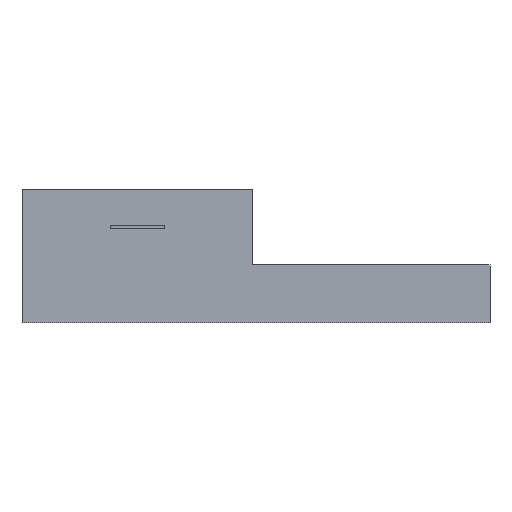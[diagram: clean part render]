
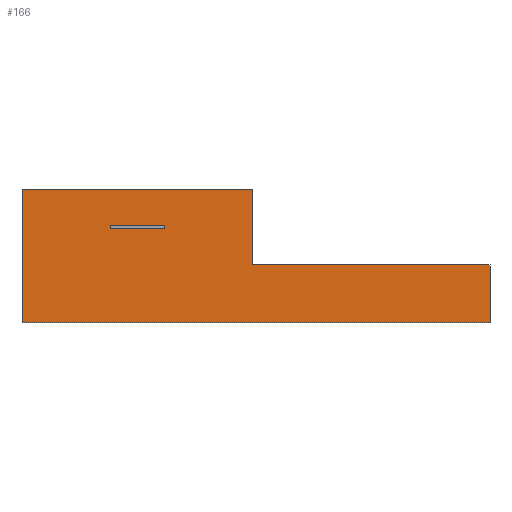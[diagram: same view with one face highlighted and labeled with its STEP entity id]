
A CAD part, left-side view. The second image highlights one B-rep face of the part: STEP entity #166.
In plain terms, the highlighted planar face has unit normal (-1, 0, 0).
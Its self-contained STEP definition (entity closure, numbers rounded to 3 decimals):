
#166=ADVANCED_FACE('',(#319,#321),#323,.T.);
#319=FACE_BOUND('',#320,.T.);
#320=EDGE_LOOP('',(#428,#429,#430,#431,#432,#433));
#321=FACE_BOUND('',#322,.T.);
#322=EDGE_LOOP('',(#434,#435,#436,#437));
#323=PLANE('',#324);
#324=AXIS2_PLACEMENT_3D('',#325,#326,#327);
#325=CARTESIAN_POINT('',(-3.2,7.6,2.6));
#326=DIRECTION('',(-1.,0.,0.));
#327=DIRECTION('',(0.,-1.,0.));
#428=ORIENTED_EDGE('',*,*,#486,.T.);
#429=ORIENTED_EDGE('',*,*,#484,.F.);
#430=ORIENTED_EDGE('',*,*,#483,.F.);
#431=ORIENTED_EDGE('',*,*,#478,.F.);
#432=ORIENTED_EDGE('',*,*,#491,.T.);
#433=ORIENTED_EDGE('',*,*,#488,.T.);
#434=ORIENTED_EDGE('',*,*,#492,.F.);
#435=ORIENTED_EDGE('',*,*,#493,.F.);
#436=ORIENTED_EDGE('',*,*,#494,.F.);
#437=ORIENTED_EDGE('',*,*,#495,.F.);
#478=EDGE_CURVE('',#536,#537,#538,.T.);
#483=EDGE_CURVE('',#537,#543,#545,.F.);
#484=EDGE_CURVE('',#543,#546,#547,.T.);
#486=EDGE_CURVE('',#549,#546,#550,.T.);
#488=EDGE_CURVE('',#552,#549,#553,.T.);
#491=EDGE_CURVE('',#536,#552,#557,.T.);
#492=EDGE_CURVE('',#558,#559,#560,.T.);
#493=EDGE_CURVE('',#561,#558,#562,.T.);
#494=EDGE_CURVE('',#563,#561,#564,.T.);
#495=EDGE_CURVE('',#559,#563,#565,.F.);
#536=VERTEX_POINT('',#646);
#537=VERTEX_POINT('',#647);
#538=LINE('',#648,#649);
#543=VERTEX_POINT('',#662);
#545=LINE('',#666,#667);
#546=VERTEX_POINT('',#669);
#547=LINE('',#670,#671);
#549=VERTEX_POINT('',#676);
#550=LINE('',#677,#678);
#552=VERTEX_POINT('',#683);
#553=LINE('',#684,#685);
#557=LINE('',#695,#696);
#558=VERTEX_POINT('',#698);
#559=VERTEX_POINT('',#699);
#560=LINE('',#700,#701);
#561=VERTEX_POINT('',#703);
#562=LINE('',#704,#705);
#563=VERTEX_POINT('',#707);
#564=LINE('',#708,#709);
#565=LINE('',#711,#712);
#646=CARTESIAN_POINT('',(-3.2,-5.4,0.));
#647=CARTESIAN_POINT('',(-3.2,7.6,0.));
#648=CARTESIAN_POINT('',(-3.2,-5.4,0.));
#649=VECTOR('',#650,1.);
#650=DIRECTION('',(0.,1.,0.));
#662=CARTESIAN_POINT('',(-3.2,7.6,3.7));
#666=CARTESIAN_POINT('',(-3.2,7.6,3.7));
#667=VECTOR('',#668,1.);
#668=DIRECTION('',(0.,0.,-1.));
#669=CARTESIAN_POINT('',(-3.2,1.2,3.7));
#670=CARTESIAN_POINT('',(-3.2,7.6,3.7));
#671=VECTOR('',#672,1.);
#672=DIRECTION('',(0.,-1.,0.));
#676=CARTESIAN_POINT('',(-3.2,1.2,1.6));
#677=CARTESIAN_POINT('',(-3.2,1.2,1.6));
#678=VECTOR('',#679,1.);
#679=DIRECTION('',(0.,0.,1.));
#683=CARTESIAN_POINT('',(-3.2,-5.4,1.6));
#684=CARTESIAN_POINT('',(-3.2,-5.4,1.6));
#685=VECTOR('',#686,1.);
#686=DIRECTION('',(0.,1.,0.));
#695=CARTESIAN_POINT('',(-3.2,-5.4,0.));
#696=VECTOR('',#697,1.);
#697=DIRECTION('',(0.,0.,1.));
#698=CARTESIAN_POINT('',(-3.2,5.15,2.7));
#699=CARTESIAN_POINT('',(-3.2,5.15,2.6));
#700=CARTESIAN_POINT('',(-3.2,5.15,2.7));
#701=VECTOR('',#702,1.);
#702=DIRECTION('',(0.,0.,-1.));
#703=CARTESIAN_POINT('',(-3.2,3.65,2.7));
#704=CARTESIAN_POINT('',(-3.2,3.65,2.7));
#705=VECTOR('',#706,1.);
#706=DIRECTION('',(0.,1.,0.));
#707=CARTESIAN_POINT('',(-3.2,3.65,2.6));
#708=CARTESIAN_POINT('',(-3.2,3.65,2.6));
#709=VECTOR('',#710,1.);
#710=DIRECTION('',(0.,0.,1.));
#711=CARTESIAN_POINT('',(-3.2,3.65,2.6));
#712=VECTOR('',#713,1.);
#713=DIRECTION('',(0.,1.,0.));
